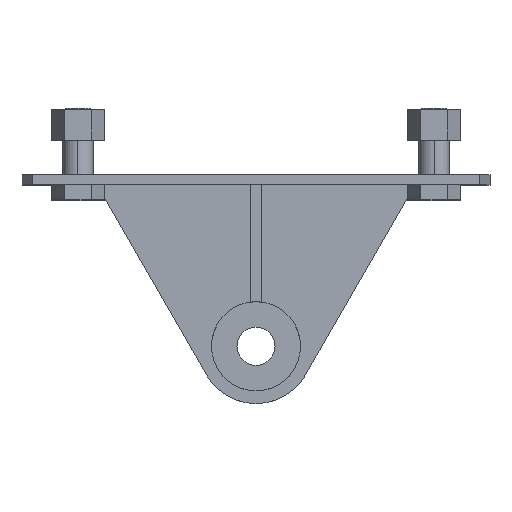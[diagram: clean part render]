
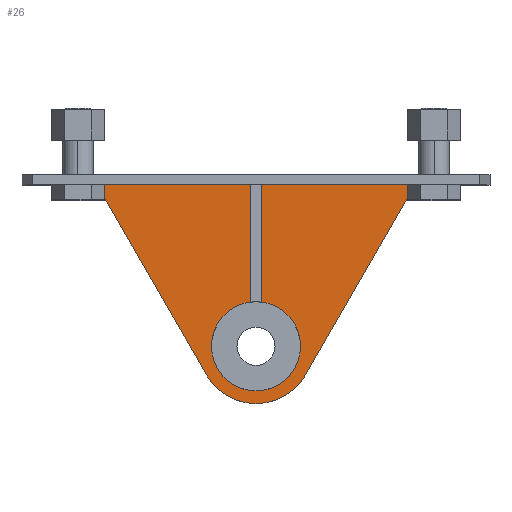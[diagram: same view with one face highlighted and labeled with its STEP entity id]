
A CAD part, top view. The second image highlights one B-rep face of the part: STEP entity #26.
In plain terms, the highlighted planar face has unit normal (0, 0, 1).
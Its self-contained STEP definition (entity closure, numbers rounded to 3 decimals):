
#26=ADVANCED_FACE('',(#172),#1904,.T.);
#172=FACE_OUTER_BOUND('',#299,.T.);
#299=EDGE_LOOP('',(#481,#482,#483,#484,#485,#486,#487,#488,#489,#490));
#481=ORIENTED_EDGE('',*,*,#1039,.T.);
#482=ORIENTED_EDGE('',*,*,#1040,.T.);
#483=ORIENTED_EDGE('',*,*,#1031,.T.);
#484=ORIENTED_EDGE('',*,*,#1038,.F.);
#485=ORIENTED_EDGE('',*,*,#1027,.T.);
#486=ORIENTED_EDGE('',*,*,#1041,.T.);
#487=ORIENTED_EDGE('',*,*,#1042,.T.);
#488=ORIENTED_EDGE('',*,*,#1047,.F.);
#489=ORIENTED_EDGE('',*,*,#1272,.F.);
#490=ORIENTED_EDGE('',*,*,#1046,.F.);
#1027=EDGE_CURVE('',#1700,#1699,#1455,.T.);
#1031=EDGE_CURVE('',#1704,#1703,#1459,.T.);
#1038=EDGE_CURVE('',#1700,#1703,#1313,.T.);
#1039=EDGE_CURVE('',#1707,#1708,#1462,.T.);
#1040=EDGE_CURVE('',#1708,#1704,#1463,.T.);
#1041=EDGE_CURVE('',#1699,#1709,#1464,.T.);
#1042=EDGE_CURVE('',#1709,#1710,#1465,.T.);
#1046=EDGE_CURVE('',#1707,#1840,#1315,.T.);
#1047=EDGE_CURVE('',#1714,#1710,#1316,.T.);
#1272=EDGE_CURVE('',#1840,#1714,#1356,.T.);
#1313=TRIMMED_CURVE($,#1381,(#3041),(#3042),.T.,.CARTESIAN.);
#1315=TRIMMED_CURVE($,#1383,(#3059),(#3060),.T.,.CARTESIAN.);
#1316=TRIMMED_CURVE($,#1384,(#3062),(#3063),.T.,.CARTESIAN.);
#1356=TRIMMED_CURVE($,#1424,(#3552),(#3553),.T.,.CARTESIAN.);
#1381=CIRCLE('',#2280,45.);
#1383=CIRCLE('',#2282,35.);
#1384=CIRCLE('',#2283,35.);
#1424=CIRCLE('',#2323,35.);
#1455=B_SPLINE_CURVE_WITH_KNOTS('',1,(#3014,#3015),.UNSPECIFIED.,.F.,.F.,
(2,2),(-172.628,0.),.UNSPECIFIED.);
#1459=B_SPLINE_CURVE_WITH_KNOTS('',1,(#3022,#3023),.UNSPECIFIED.,.F.,.F.,
(2,2),(-172.628,0.),.UNSPECIFIED.);
#1462=B_SPLINE_CURVE_WITH_KNOTS('',1,(#3043,#3044),.UNSPECIFIED.,.F.,.F.,
(2,2),(0.,92.229),.UNSPECIFIED.);
#1463=B_SPLINE_CURVE_WITH_KNOTS('',1,(#3045,#3046),.UNSPECIFIED.,.F.,.F.,
(2,2),(0.,121.285),.UNSPECIFIED.);
#1464=B_SPLINE_CURVE_WITH_KNOTS('',1,(#3047,#3048),.UNSPECIFIED.,.F.,.F.,
(2,2),(0.,121.285),.UNSPECIFIED.);
#1465=B_SPLINE_CURVE_WITH_KNOTS('',1,(#3049,#3050),.UNSPECIFIED.,.F.,.F.,
(2,2),(0.,92.229),.UNSPECIFIED.);
#1699=VERTEX_POINT('',#2832);
#1700=VERTEX_POINT('',#2833);
#1703=VERTEX_POINT('',#2836);
#1704=VERTEX_POINT('',#2837);
#1707=VERTEX_POINT('',#2840);
#1708=VERTEX_POINT('',#2841);
#1709=VERTEX_POINT('',#2842);
#1710=VERTEX_POINT('',#2843);
#1714=VERTEX_POINT('',#2847);
#1840=VERTEX_POINT('',#2973);
#1904=PLANE('',#2169);
#2169=AXIS2_PLACEMENT_3D('',#2615,#2358,$);
#2280=AXIS2_PLACEMENT_3D($,#3040,#2473,#2474);
#2282=AXIS2_PLACEMENT_3D($,#3058,#2477,#2478);
#2283=AXIS2_PLACEMENT_3D($,#3061,#2479,#2480);
#2323=AXIS2_PLACEMENT_3D($,#3551,#2559,#2560);
#2358=DIRECTION('',(0.,0.,1.));
#2473=DIRECTION('',(0.,0.,-1.));
#2474=DIRECTION('',(-0.866,0.5,0.));
#2477=DIRECTION('',(0.,0.,1.));
#2478=DIRECTION('',(0.114,-0.993,0.));
#2479=DIRECTION('',(0.,0.,1.));
#2480=DIRECTION('',(-1.,0.,0.));
#2559=DIRECTION('',(0.,0.,1.));
#2560=DIRECTION('',(1.,0.,0.));
#2615=CARTESIAN_POINT('',(-150.402,-144.26,4.));
#2832=CARTESIAN_POINT('',(-125.285,-127.,4.));
#2833=CARTESIAN_POINT('',(-38.971,22.5,4.));
#2836=CARTESIAN_POINT('',(38.971,22.5,4.));
#2837=CARTESIAN_POINT('',(125.285,-127.,4.));
#2840=CARTESIAN_POINT('',(4.,-34.771,4.));
#2841=CARTESIAN_POINT('',(4.,-127.,4.));
#2842=CARTESIAN_POINT('',(-4.,-127.,4.));
#2843=CARTESIAN_POINT('',(-4.,-34.771,4.));
#2847=CARTESIAN_POINT('',(-35.,0.,4.));
#2973=CARTESIAN_POINT('',(35.,0.,4.));
#3014=CARTESIAN_POINT('',(-38.971,22.5,4.));
#3015=CARTESIAN_POINT('',(-125.285,-127.,4.));
#3022=CARTESIAN_POINT('',(125.285,-127.,4.));
#3023=CARTESIAN_POINT('',(38.971,22.5,4.));
#3040=CARTESIAN_POINT('',(0.,0.,4.));
#3041=CARTESIAN_POINT('',(-38.971,22.5,4.));
#3042=CARTESIAN_POINT('',(38.971,22.5,4.));
#3043=CARTESIAN_POINT('',(4.,-34.771,4.));
#3044=CARTESIAN_POINT('',(4.,-127.,4.));
#3045=CARTESIAN_POINT('',(4.,-127.,4.));
#3046=CARTESIAN_POINT('',(125.285,-127.,4.));
#3047=CARTESIAN_POINT('',(-125.285,-127.,4.));
#3048=CARTESIAN_POINT('',(-4.,-127.,4.));
#3049=CARTESIAN_POINT('',(-4.,-127.,4.));
#3050=CARTESIAN_POINT('',(-4.,-34.771,4.));
#3058=CARTESIAN_POINT('',(0.,0.,4.));
#3059=CARTESIAN_POINT('',(4.,-34.771,4.));
#3060=CARTESIAN_POINT('',(35.,0.,4.));
#3061=CARTESIAN_POINT('',(0.,0.,4.));
#3062=CARTESIAN_POINT('',(-35.,0.,4.));
#3063=CARTESIAN_POINT('',(-4.,-34.771,4.));
#3551=CARTESIAN_POINT('',(0.,0.,4.));
#3552=CARTESIAN_POINT('',(35.,0.,4.));
#3553=CARTESIAN_POINT('',(-35.,0.,4.));
